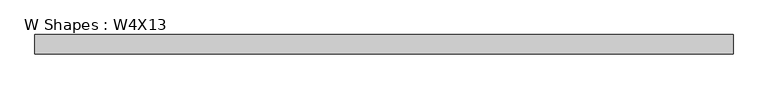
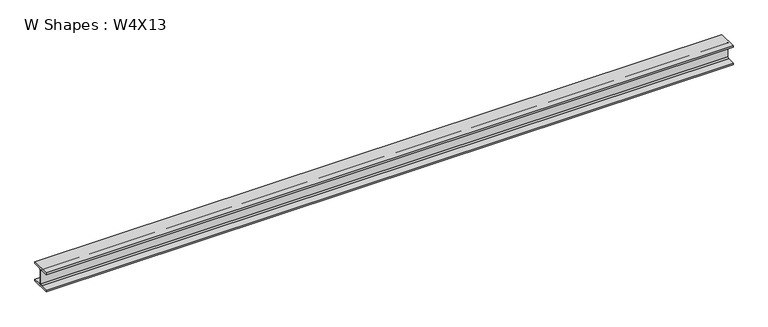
"""IFC4 building model written with IfcOpenShell, lengths in millimetres: beam geometry, W Shapes : W4X13."""

from ifc_helpers import new_model, si_unit, point, frame, frame_2d, origin, place, context, project, spatial, polyline, circle_curve, trimmed, segment, composite_curve, outline, extrude, source, transform, mapped, element, save


def w_shapes_w4x13_9ad04f5a(model_context):
    return source(origin(), model_context, "Body", "SweptSolid", [
        extrude(outline(composite_curve([segment(polyline([(51.562, -44.069), (51.562, -52.832), (-51.562, -52.832), (-51.562, -44.069), (-9.906, -44.069)]), True, "CONTINUOUS"), segment(trimmed(circle_curve(frame_2d((-9.906, -37.719)), 6.35), [point((-9.906, -44.069))], [point((-3.556, -37.719))], True, "CARTESIAN"), True, "CONTINUOUS"), segment(polyline([(-3.556, -37.719), (-3.556, 37.719)]), True, "CONTINUOUS"), segment(trimmed(circle_curve(frame_2d((-9.906, 37.719)), 6.35), [point((-3.556, 37.719))], [point((-9.906, 44.069))], True, "CARTESIAN"), True, "CONTINUOUS"), segment(polyline([(-9.906, 44.069), (-51.562, 44.069), (-51.562, 52.832), (51.562, 52.832), (51.562, 44.069), (9.906, 44.069)]), True, "CONTINUOUS"), segment(trimmed(circle_curve(frame_2d((9.906, 37.719)), 6.35), [point((9.906, 44.069))], [point((3.556, 37.719))], True, "CARTESIAN"), True, "CONTINUOUS"), segment(polyline([(3.556, 37.719), (3.556, -37.719)]), True, "CONTINUOUS"), segment(trimmed(circle_curve(frame_2d((9.906, -37.719)), 6.35), [point((3.556, -37.719))], [point((9.906, -44.069))], True, "CARTESIAN"), True, "CONTINUOUS"), segment(polyline([(9.906, -44.069), (51.562, -44.069)]), True, "CONTINUOUS")], self_intersect=False)), frame((-1841.373, 0.0, 0.0), z_axis=(1.0, 0.0, 0.0), x_axis=(0.0, 1.0, 0.0)), (0.0, 0.0, 1.0), 3682.746),
    ])


if __name__ == "__main__":
    model = new_model("IFC4")
    model_context = context("Model", 3, world=origin())
    ifc_project = project(units=[si_unit("LENGTHUNIT", "METRE", prefix="MILLI")], contexts=[model_context])
    site = spatial("IfcSite", under=ifc_project)
    building = spatial("IfcBuilding", under=site)
    placement = place(None, origin())
    w_shapes_w4x13_shape = w_shapes_w4x13_9ad04f5a(model_context)
    element("IfcBeam", 1, ObjectType="W Shapes : W4X13", at=placement, inside=building, context=model_context, shape_type="MappedRepresentation", body=[
        mapped(w_shapes_w4x13_shape, transform((0.0, 0.0, 0.0), x_axis=(1.0, 0.0, 0.0), y_axis=(0.0, 1.0, 0.0), z_axis=(0.0, 0.0, 1.0))),
    ])
    save(model, "model.ifc")
